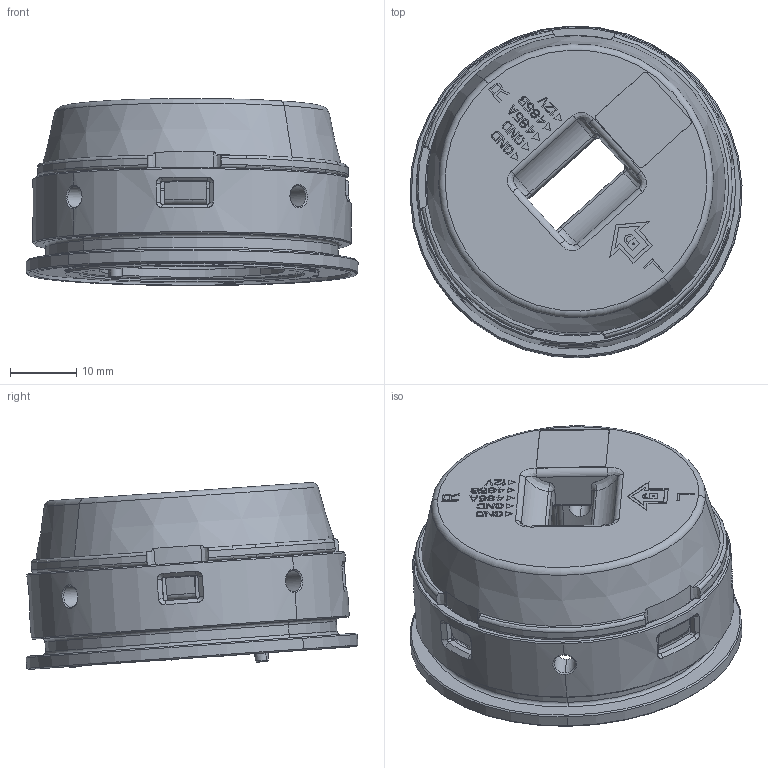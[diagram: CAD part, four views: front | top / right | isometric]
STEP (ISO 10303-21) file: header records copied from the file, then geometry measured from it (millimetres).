
FILE_DESCRIPTION((''),'2;1');
FILE_NAME('STARK_WRIST_2_GY_ASM','2024-10-31T18:49:32',('76495'),(''),'CREO PARAMETRIC BY PTC INC, 2022284','CREO PARAMETRIC BY PTC INC, 2022284','');
FILE_SCHEMA(('CONFIG_CONTROL_DESIGN'));
Length unit declared in the file: millimetre
Products named in the file (7): BC2-0000022-STARK-WRIST-SOCKET_; BC2-0800061-STARK-WRIST-SOCKET-_ASM; GAI; HTSINSRT-M2L4-MC-94459A120; BC2-0100655_ASM; SPRNG-CIM030AA01M; STARK_WRIST_2_GY_ASM
Assembly tree (15 placements, depth 3):
  STARK_WRIST_2_GY_ASM
    BC2-0800061-STARK-WRIST-SOCKET-_ASM
      BC2-0000022-STARK-WRIST-SOCKET_
    BC2-0100655_ASM
      GAI
      HTSINSRT-M2L4-MC-94459A120  x3
    SPRNG-CIM030AA01M  x8
Bounding box: 49.97 x 49.96 x 28.14 mm (x, y, z)
Volume: 11908.8 mm3; surface area: 15366.8 mm2
Topology: 13 solids, 13 shells, 2309 faces, 7277 edges, 5074 vertices
Faces by surface type: plane 774, bspline 650, cone 416, cylinder 414, torus 34, sphere 16, extrusion 5
Entity records: 75335 total; most frequent: CARTESIAN_POINT 38197, ORIENTED_EDGE 8596, DIRECTION 6381, EDGE_CURVE 4298, VERTEX_POINT 2857, VECTOR 2249, LINE 2244, AXIS2_PLACEMENT_3D 2066
